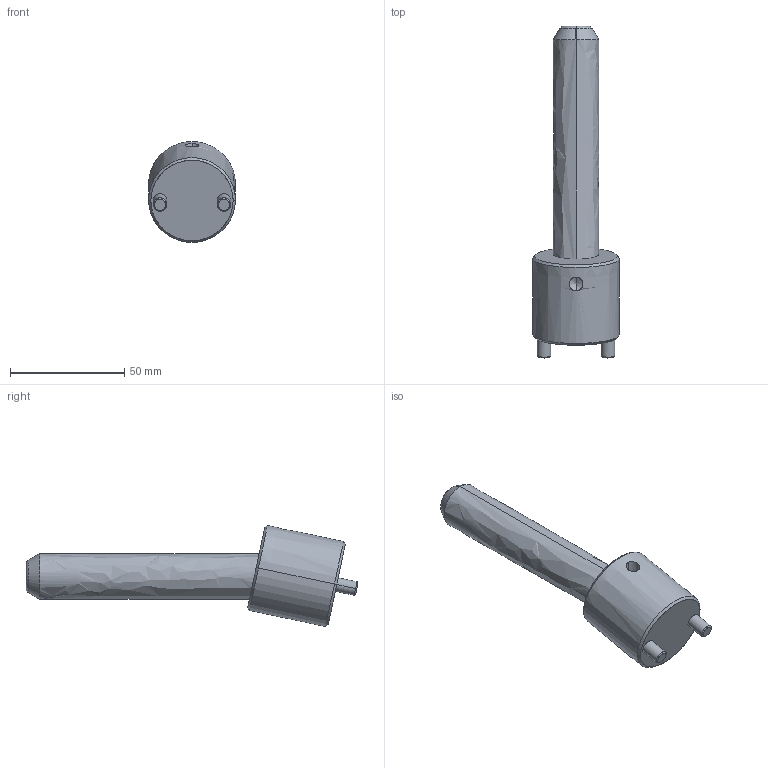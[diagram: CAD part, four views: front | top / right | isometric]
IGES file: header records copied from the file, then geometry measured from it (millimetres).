
Start section: START RECORD GO HERE.
Global section: file name: CI1220100.igs; native system: DASSAULT SYSTEMES CATIA V5 R20 - www.3ds.com; preprocessor: CATIA Version 5 Release 20 ; author: r.borello; organization: CFTORINO; date: 20190621.160533; units: millimetre
Bounding box: 38 x 145.37 x 44.24 mm (x, y, z)
Surface area: 17445.9 mm2 (no closed solid volume)
Topology: 0 solids, 0 shells, 39 faces, 162 edges, 160 vertices
Faces by surface type: revolution 32, plane 7
